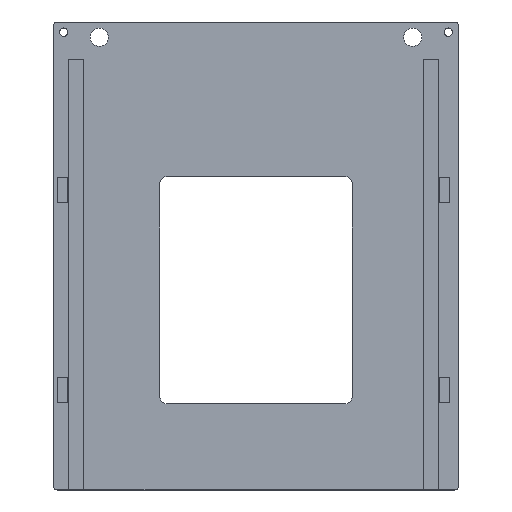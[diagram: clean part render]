
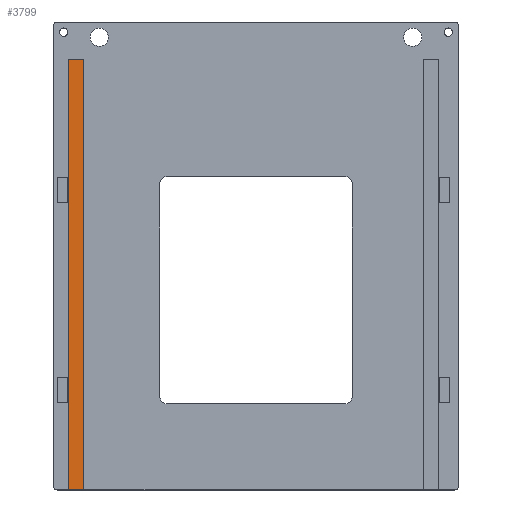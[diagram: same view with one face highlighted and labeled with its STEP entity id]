
A CAD part, top view. The second image highlights one B-rep face of the part: STEP entity #3799.
In plain terms, the highlighted planar face has unit normal (0, 0, 1).
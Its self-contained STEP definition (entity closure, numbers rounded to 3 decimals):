
#182 = PLANE('',#183);
#183 = AXIS2_PLACEMENT_3D('',#184,#185,#186);
#184 = CARTESIAN_POINT('',(4.,16.,3.2));
#185 = DIRECTION('',(0.,1.,0.));
#186 = DIRECTION('',(0.,0.,1.));
#210 = PLANE('',#211);
#211 = AXIS2_PLACEMENT_3D('',#212,#213,#214);
#212 = CARTESIAN_POINT('',(10.,16.,5.2));
#213 = DIRECTION('',(1.,0.,0.));
#214 = DIRECTION('',(0.,0.,1.));
#238 = PLANE('',#239);
#239 = AXIS2_PLACEMENT_3D('',#240,#241,#242);
#240 = CARTESIAN_POINT('',(10.,186.,5.2));
#241 = DIRECTION('',(0.,1.,0.));
#242 = DIRECTION('',(0.,0.,1.));
#266 = PLANE('',#267);
#267 = AXIS2_PLACEMENT_3D('',#268,#269,#270);
#268 = CARTESIAN_POINT('',(16.,16.,5.2));
#269 = DIRECTION('',(1.,0.,0.));
#270 = DIRECTION('',(0.,0.,1.));
#1908 = VERTEX_POINT('',#1909);
#1909 = CARTESIAN_POINT('',(10.,16.,6.));
#1930 = EDGE_CURVE('',#1908,#1931,#1933,.T.);
#1931 = VERTEX_POINT('',#1932);
#1932 = CARTESIAN_POINT('',(16.,16.,6.));
#1933 = SURFACE_CURVE('',#1934,(#1938,#1945),.PCURVE_S1.);
#1934 = LINE('',#1935,#1936);
#1935 = CARTESIAN_POINT('',(10.,16.,6.));
#1936 = VECTOR('',#1937,1.);
#1937 = DIRECTION('',(1.,0.,0.));
#1938 = PCURVE('',#182,#1939);
#1939 = DEFINITIONAL_REPRESENTATION('',(#1940),#1944);
#1940 = LINE('',#1941,#1942);
#1941 = CARTESIAN_POINT('',(2.8,6.));
#1942 = VECTOR('',#1943,1.);
#1943 = DIRECTION('',(0.,1.));
#1944 = ( GEOMETRIC_REPRESENTATION_CONTEXT(2) 
PARAMETRIC_REPRESENTATION_CONTEXT() REPRESENTATION_CONTEXT('2D SPACE',''
  ) );
#1945 = PCURVE('',#1946,#1951);
#1946 = PLANE('',#1947);
#1947 = AXIS2_PLACEMENT_3D('',#1948,#1949,#1950);
#1948 = CARTESIAN_POINT('',(10.,16.,6.));
#1949 = DIRECTION('',(0.,0.,1.));
#1950 = DIRECTION('',(1.,0.,0.));
#1951 = DEFINITIONAL_REPRESENTATION('',(#1952),#1956);
#1952 = LINE('',#1953,#1954);
#1953 = CARTESIAN_POINT('',(0.,0.));
#1954 = VECTOR('',#1955,1.);
#1955 = DIRECTION('',(1.,0.));
#1956 = ( GEOMETRIC_REPRESENTATION_CONTEXT(2) 
PARAMETRIC_REPRESENTATION_CONTEXT() REPRESENTATION_CONTEXT('2D SPACE',''
  ) );
#2107 = VERTEX_POINT('',#2108);
#2108 = CARTESIAN_POINT('',(10.,186.,6.));
#2129 = EDGE_CURVE('',#1908,#2107,#2130,.T.);
#2130 = SURFACE_CURVE('',#2131,(#2135,#2142),.PCURVE_S1.);
#2131 = LINE('',#2132,#2133);
#2132 = CARTESIAN_POINT('',(10.,16.,6.));
#2133 = VECTOR('',#2134,1.);
#2134 = DIRECTION('',(0.,1.,0.));
#2135 = PCURVE('',#210,#2136);
#2136 = DEFINITIONAL_REPRESENTATION('',(#2137),#2141);
#2137 = LINE('',#2138,#2139);
#2138 = CARTESIAN_POINT('',(0.8,0.));
#2139 = VECTOR('',#2140,1.);
#2140 = DIRECTION('',(0.,-1.));
#2141 = ( GEOMETRIC_REPRESENTATION_CONTEXT(2) 
PARAMETRIC_REPRESENTATION_CONTEXT() REPRESENTATION_CONTEXT('2D SPACE',''
  ) );
#2142 = PCURVE('',#1946,#2143);
#2143 = DEFINITIONAL_REPRESENTATION('',(#2144),#2148);
#2144 = LINE('',#2145,#2146);
#2145 = CARTESIAN_POINT('',(0.,0.));
#2146 = VECTOR('',#2147,1.);
#2147 = DIRECTION('',(0.,1.));
#2148 = ( GEOMETRIC_REPRESENTATION_CONTEXT(2) 
PARAMETRIC_REPRESENTATION_CONTEXT() REPRESENTATION_CONTEXT('2D SPACE',''
  ) );
#2182 = EDGE_CURVE('',#2107,#2183,#2185,.T.);
#2183 = VERTEX_POINT('',#2184);
#2184 = CARTESIAN_POINT('',(16.,186.,6.));
#2185 = SURFACE_CURVE('',#2186,(#2190,#2197),.PCURVE_S1.);
#2186 = LINE('',#2187,#2188);
#2187 = CARTESIAN_POINT('',(10.,186.,6.));
#2188 = VECTOR('',#2189,1.);
#2189 = DIRECTION('',(1.,0.,0.));
#2190 = PCURVE('',#238,#2191);
#2191 = DEFINITIONAL_REPRESENTATION('',(#2192),#2196);
#2192 = LINE('',#2193,#2194);
#2193 = CARTESIAN_POINT('',(0.8,0.));
#2194 = VECTOR('',#2195,1.);
#2195 = DIRECTION('',(0.,1.));
#2196 = ( GEOMETRIC_REPRESENTATION_CONTEXT(2) 
PARAMETRIC_REPRESENTATION_CONTEXT() REPRESENTATION_CONTEXT('2D SPACE',''
  ) );
#2197 = PCURVE('',#1946,#2198);
#2198 = DEFINITIONAL_REPRESENTATION('',(#2199),#2203);
#2199 = LINE('',#2200,#2201);
#2200 = CARTESIAN_POINT('',(0.,170.));
#2201 = VECTOR('',#2202,1.);
#2202 = DIRECTION('',(1.,0.));
#2203 = ( GEOMETRIC_REPRESENTATION_CONTEXT(2) 
PARAMETRIC_REPRESENTATION_CONTEXT() REPRESENTATION_CONTEXT('2D SPACE',''
  ) );
#2259 = EDGE_CURVE('',#1931,#2183,#2260,.T.);
#2260 = SURFACE_CURVE('',#2261,(#2265,#2272),.PCURVE_S1.);
#2261 = LINE('',#2262,#2263);
#2262 = CARTESIAN_POINT('',(16.,16.,6.));
#2263 = VECTOR('',#2264,1.);
#2264 = DIRECTION('',(0.,1.,0.));
#2265 = PCURVE('',#266,#2266);
#2266 = DEFINITIONAL_REPRESENTATION('',(#2267),#2271);
#2267 = LINE('',#2268,#2269);
#2268 = CARTESIAN_POINT('',(0.8,0.));
#2269 = VECTOR('',#2270,1.);
#2270 = DIRECTION('',(0.,-1.));
#2271 = ( GEOMETRIC_REPRESENTATION_CONTEXT(2) 
PARAMETRIC_REPRESENTATION_CONTEXT() REPRESENTATION_CONTEXT('2D SPACE',''
  ) );
#2272 = PCURVE('',#1946,#2273);
#2273 = DEFINITIONAL_REPRESENTATION('',(#2274),#2278);
#2274 = LINE('',#2275,#2276);
#2275 = CARTESIAN_POINT('',(6.,0.));
#2276 = VECTOR('',#2277,1.);
#2277 = DIRECTION('',(0.,1.));
#2278 = ( GEOMETRIC_REPRESENTATION_CONTEXT(2) 
PARAMETRIC_REPRESENTATION_CONTEXT() REPRESENTATION_CONTEXT('2D SPACE',''
  ) );
#3799 = ADVANCED_FACE('',(#3800),#1946,.T.);
#3800 = FACE_BOUND('',#3801,.T.);
#3801 = EDGE_LOOP('',(#3802,#3803,#3804,#3805));
#3802 = ORIENTED_EDGE('',*,*,#2129,.F.);
#3803 = ORIENTED_EDGE('',*,*,#1930,.T.);
#3804 = ORIENTED_EDGE('',*,*,#2259,.T.);
#3805 = ORIENTED_EDGE('',*,*,#2182,.F.);
